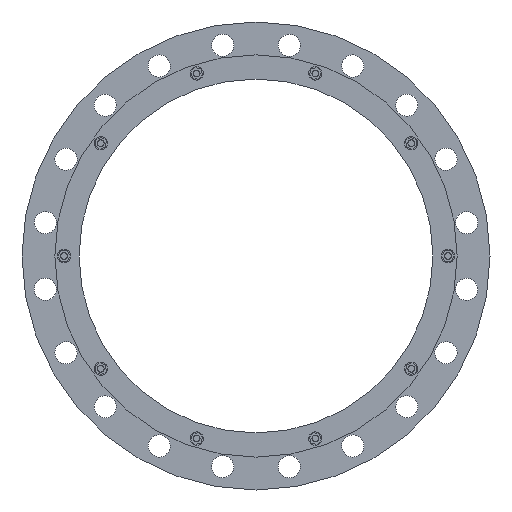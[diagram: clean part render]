
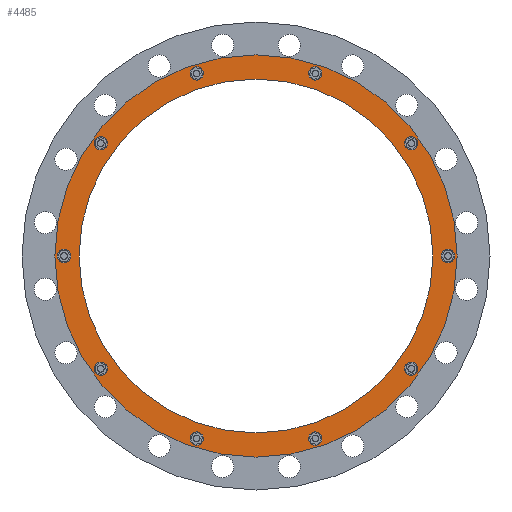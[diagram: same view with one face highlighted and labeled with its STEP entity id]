
A CAD part, front view. The second image highlights one B-rep face of the part: STEP entity #4485.
In plain terms, the highlighted planar face has unit normal (0, -1, 0).
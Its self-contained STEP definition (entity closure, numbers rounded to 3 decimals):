
#1108=CARTESIAN_POINT('',(0.,-92.452,0.));
#1109=DIRECTION('',(0.,-1.,0.));
#1110=DIRECTION('',(1.,0.,0.));
#1111=AXIS2_PLACEMENT_3D('',#1108,#1109,#1110);
#1113=CARTESIAN_POINT('',(0.,-92.452,0.));
#1114=DIRECTION('',(0.,1.,0.));
#1115=DIRECTION('',(1.,0.,0.));
#1116=AXIS2_PLACEMENT_3D('',#1113,#1114,#1115);
#1118=CARTESIAN_POINT('',(346.5,-92.452,0.));
#1119=DIRECTION('',(0.,-1.,0.));
#1120=DIRECTION('',(0.,0.,-1.));
#1121=AXIS2_PLACEMENT_3D('',#1118,#1119,#1120);
#1123=CARTESIAN_POINT('',(346.5,-92.452,0.));
#1124=DIRECTION('',(0.,-1.,0.));
#1125=DIRECTION('',(0.,0.,1.));
#1126=AXIS2_PLACEMENT_3D('',#1123,#1124,#1125);
#1128=CARTESIAN_POINT('',(280.324,-92.452,203.668));
#1129=DIRECTION('',(0.,-1.,0.));
#1130=DIRECTION('',(0.588,0.,-0.809));
#1131=AXIS2_PLACEMENT_3D('',#1128,#1129,#1130);
#1133=CARTESIAN_POINT('',(280.324,-92.452,203.668));
#1134=DIRECTION('',(0.,-1.,0.));
#1135=DIRECTION('',(-0.588,0.,0.809));
#1136=AXIS2_PLACEMENT_3D('',#1133,#1134,#1135);
#1138=CARTESIAN_POINT('',(107.074,-92.452,329.541));
#1139=DIRECTION('',(0.,-1.,0.));
#1140=DIRECTION('',(0.951,0.,-0.309));
#1141=AXIS2_PLACEMENT_3D('',#1138,#1139,#1140);
#1143=CARTESIAN_POINT('',(107.074,-92.452,329.541));
#1144=DIRECTION('',(0.,-1.,0.));
#1145=DIRECTION('',(-0.951,0.,0.309));
#1146=AXIS2_PLACEMENT_3D('',#1143,#1144,#1145);
#1148=CARTESIAN_POINT('',(-107.074,-92.452,329.541));
#1149=DIRECTION('',(0.,-1.,0.));
#1150=DIRECTION('',(0.951,0.,0.309));
#1151=AXIS2_PLACEMENT_3D('',#1148,#1149,#1150);
#1153=CARTESIAN_POINT('',(-107.074,-92.452,329.541));
#1154=DIRECTION('',(0.,-1.,0.));
#1155=DIRECTION('',(-0.951,0.,-0.309));
#1156=AXIS2_PLACEMENT_3D('',#1153,#1154,#1155);
#1158=CARTESIAN_POINT('',(-280.324,-92.452,203.668));
#1159=DIRECTION('',(0.,-1.,0.));
#1160=DIRECTION('',(0.588,0.,0.809));
#1161=AXIS2_PLACEMENT_3D('',#1158,#1159,#1160);
#1163=CARTESIAN_POINT('',(-280.324,-92.452,203.668));
#1164=DIRECTION('',(0.,-1.,0.));
#1165=DIRECTION('',(-0.588,0.,-0.809));
#1166=AXIS2_PLACEMENT_3D('',#1163,#1164,#1165);
#1168=CARTESIAN_POINT('',(-346.5,-92.452,0.));
#1169=DIRECTION('',(0.,-1.,0.));
#1170=DIRECTION('',(0.,0.,1.));
#1171=AXIS2_PLACEMENT_3D('',#1168,#1169,#1170);
#1173=CARTESIAN_POINT('',(-346.5,-92.452,0.));
#1174=DIRECTION('',(0.,-1.,0.));
#1175=DIRECTION('',(0.,0.,-1.));
#1176=AXIS2_PLACEMENT_3D('',#1173,#1174,#1175);
#1178=CARTESIAN_POINT('',(-280.324,-92.452,-203.668));
#1179=DIRECTION('',(0.,-1.,0.));
#1180=DIRECTION('',(-0.588,0.,0.809));
#1181=AXIS2_PLACEMENT_3D('',#1178,#1179,#1180);
#1183=CARTESIAN_POINT('',(-280.324,-92.452,-203.668));
#1184=DIRECTION('',(0.,-1.,0.));
#1185=DIRECTION('',(0.588,0.,-0.809));
#1186=AXIS2_PLACEMENT_3D('',#1183,#1184,#1185);
#1188=CARTESIAN_POINT('',(-107.074,-92.452,-329.541));
#1189=DIRECTION('',(0.,-1.,0.));
#1190=DIRECTION('',(-0.951,0.,0.309));
#1191=AXIS2_PLACEMENT_3D('',#1188,#1189,#1190);
#1193=CARTESIAN_POINT('',(-107.074,-92.452,-329.541));
#1194=DIRECTION('',(0.,-1.,0.));
#1195=DIRECTION('',(0.951,0.,-0.309));
#1196=AXIS2_PLACEMENT_3D('',#1193,#1194,#1195);
#1198=CARTESIAN_POINT('',(107.074,-92.452,-329.541));
#1199=DIRECTION('',(0.,-1.,0.));
#1200=DIRECTION('',(-0.951,0.,-0.309));
#1201=AXIS2_PLACEMENT_3D('',#1198,#1199,#1200);
#1203=CARTESIAN_POINT('',(107.074,-92.452,-329.541));
#1204=DIRECTION('',(0.,-1.,0.));
#1205=DIRECTION('',(0.951,0.,0.309));
#1206=AXIS2_PLACEMENT_3D('',#1203,#1204,#1205);
#1208=CARTESIAN_POINT('',(280.324,-92.452,-203.668));
#1209=DIRECTION('',(0.,-1.,0.));
#1210=DIRECTION('',(-0.588,0.,-0.809));
#1211=AXIS2_PLACEMENT_3D('',#1208,#1209,#1210);
#1213=CARTESIAN_POINT('',(280.324,-92.452,-203.668));
#1214=DIRECTION('',(0.,-1.,0.));
#1215=DIRECTION('',(0.588,0.,0.809));
#1216=AXIS2_PLACEMENT_3D('',#1213,#1214,#1215);
#1218=CARTESIAN_POINT('',(0.,-92.452,0.));
#1219=DIRECTION('',(0.,1.,0.));
#1220=DIRECTION('',(1.,0.,0.));
#1221=AXIS2_PLACEMENT_3D('',#1218,#1219,#1220);
#1231=CARTESIAN_POINT('',(0.,-92.452,0.));
#1232=DIRECTION('',(0.,-1.,0.));
#1233=DIRECTION('',(1.,0.,0.));
#1234=AXIS2_PLACEMENT_3D('',#1231,#1232,#1233);
#2983=CARTESIAN_POINT('',(363.1,-92.452,0.));
#2985=VERTEX_POINT('',#2983);
#2986=CARTESIAN_POINT('',(319.5,-92.452,0.));
#2988=VERTEX_POINT('',#2986);
#2995=CARTESIAN_POINT('',(-363.1,-92.452,0.));
#2997=VERTEX_POINT('',#2995);
#2998=CARTESIAN_POINT('',(-319.5,-92.452,0.));
#3000=VERTEX_POINT('',#2998);
#3037=CARTESIAN_POINT('',(346.5,-92.452,-12.));
#3038=CARTESIAN_POINT('',(346.5,-92.452,12.));
#3039=VERTEX_POINT('',#3037);
#3040=VERTEX_POINT('',#3038);
#3086=CARTESIAN_POINT('',(287.378,-92.452,193.959));
#3087=VERTEX_POINT('',#3086);
#3088=CARTESIAN_POINT('',(273.271,-92.452,213.376));
#3089=VERTEX_POINT('',#3088);
#3130=CARTESIAN_POINT('',(118.487,-92.452,325.833));
#3131=VERTEX_POINT('',#3130);
#3132=CARTESIAN_POINT('',(95.662,-92.452,333.249));
#3133=VERTEX_POINT('',#3132);
#3174=CARTESIAN_POINT('',(-95.662,-92.452,333.249));
#3175=VERTEX_POINT('',#3174);
#3176=CARTESIAN_POINT('',(-118.487,-92.452,325.833));
#3177=VERTEX_POINT('',#3176);
#3218=CARTESIAN_POINT('',(-273.271,-92.452,213.376));
#3219=VERTEX_POINT('',#3218);
#3220=CARTESIAN_POINT('',(-287.378,-92.452,193.959));
#3221=VERTEX_POINT('',#3220);
#3262=CARTESIAN_POINT('',(-346.5,-92.452,12.));
#3263=VERTEX_POINT('',#3262);
#3264=CARTESIAN_POINT('',(-346.5,-92.452,-12.));
#3265=VERTEX_POINT('',#3264);
#3306=CARTESIAN_POINT('',(-287.378,-92.452,-193.959));
#3307=VERTEX_POINT('',#3306);
#3308=CARTESIAN_POINT('',(-273.271,-92.452,-213.376));
#3309=VERTEX_POINT('',#3308);
#3350=CARTESIAN_POINT('',(-118.487,-92.452,-325.833));
#3351=VERTEX_POINT('',#3350);
#3352=CARTESIAN_POINT('',(-95.662,-92.452,-333.249));
#3353=VERTEX_POINT('',#3352);
#3565=CARTESIAN_POINT('',(95.662,-92.452,-333.249));
#3566=VERTEX_POINT('',#3565);
#3567=CARTESIAN_POINT('',(118.487,-92.452,-325.833));
#3568=VERTEX_POINT('',#3567);
#3609=CARTESIAN_POINT('',(273.271,-92.452,-213.376));
#3610=VERTEX_POINT('',#3609);
#3611=CARTESIAN_POINT('',(287.378,-92.452,-193.959));
#3612=VERTEX_POINT('',#3611);
#4410=CARTESIAN_POINT('',(0.,-92.452,0.));
#4411=DIRECTION('',(0.,1.,0.));
#4412=DIRECTION('',(-1.,0.,0.));
#4413=AXIS2_PLACEMENT_3D('',#4410,#4411,#4412);
#4414=PLANE('',#4413);
#4416=ORIENTED_EDGE('',*,*,#4415,.F.);
#4418=ORIENTED_EDGE('',*,*,#4417,.T.);
#4419=EDGE_LOOP('',(#4416,#4418));
#4420=FACE_OUTER_BOUND('',#4419,.F.);
#4422=ORIENTED_EDGE('',*,*,#4421,.F.);
#4424=ORIENTED_EDGE('',*,*,#4423,.T.);
#4425=EDGE_LOOP('',(#4422,#4424));
#4426=FACE_BOUND('',#4425,.F.);
#4428=ORIENTED_EDGE('',*,*,#4427,.T.);
#4430=ORIENTED_EDGE('',*,*,#4429,.T.);
#4431=EDGE_LOOP('',(#4428,#4430));
#4432=FACE_BOUND('',#4431,.F.);
#4434=ORIENTED_EDGE('',*,*,#4433,.T.);
#4436=ORIENTED_EDGE('',*,*,#4435,.T.);
#4437=EDGE_LOOP('',(#4434,#4436));
#4438=FACE_BOUND('',#4437,.F.);
#4440=ORIENTED_EDGE('',*,*,#4439,.T.);
#4442=ORIENTED_EDGE('',*,*,#4441,.T.);
#4443=EDGE_LOOP('',(#4440,#4442));
#4444=FACE_BOUND('',#4443,.F.);
#4446=ORIENTED_EDGE('',*,*,#4445,.T.);
#4448=ORIENTED_EDGE('',*,*,#4447,.T.);
#4449=EDGE_LOOP('',(#4446,#4448));
#4450=FACE_BOUND('',#4449,.F.);
#4452=ORIENTED_EDGE('',*,*,#4451,.T.);
#4454=ORIENTED_EDGE('',*,*,#4453,.T.);
#4455=EDGE_LOOP('',(#4452,#4454));
#4456=FACE_BOUND('',#4455,.F.);
#4458=ORIENTED_EDGE('',*,*,#4457,.T.);
#4460=ORIENTED_EDGE('',*,*,#4459,.T.);
#4461=EDGE_LOOP('',(#4458,#4460));
#4462=FACE_BOUND('',#4461,.F.);
#4464=ORIENTED_EDGE('',*,*,#4463,.T.);
#4466=ORIENTED_EDGE('',*,*,#4465,.T.);
#4467=EDGE_LOOP('',(#4464,#4466));
#4468=FACE_BOUND('',#4467,.F.);
#4470=ORIENTED_EDGE('',*,*,#4469,.T.);
#4472=ORIENTED_EDGE('',*,*,#4471,.T.);
#4473=EDGE_LOOP('',(#4470,#4472));
#4474=FACE_BOUND('',#4473,.F.);
#4475=ORIENTED_EDGE('',*,*,#4392,.T.);
#4476=ORIENTED_EDGE('',*,*,#4403,.T.);
#4477=EDGE_LOOP('',(#4475,#4476));
#4478=FACE_BOUND('',#4477,.F.);
#4480=ORIENTED_EDGE('',*,*,#4479,.T.);
#4482=ORIENTED_EDGE('',*,*,#4481,.T.);
#4483=EDGE_LOOP('',(#4480,#4482));
#4484=FACE_BOUND('',#4483,.F.);
#4485=ADVANCED_FACE('',(#4420,#4426,#4432,#4438,#4444,#4450,#4456,#4462,#4468,
#4474,#4478,#4484),#4414,.F.);
#1112=CIRCLE('',#1111,363.1);
#1117=CIRCLE('',#1116,363.1);
#1122=CIRCLE('',#1121,12.);
#1127=CIRCLE('',#1126,12.);
#1132=CIRCLE('',#1131,12.);
#1137=CIRCLE('',#1136,12.);
#1142=CIRCLE('',#1141,12.);
#1147=CIRCLE('',#1146,12.);
#1152=CIRCLE('',#1151,12.);
#1157=CIRCLE('',#1156,12.);
#1162=CIRCLE('',#1161,12.);
#1167=CIRCLE('',#1166,12.);
#1172=CIRCLE('',#1171,12.);
#1177=CIRCLE('',#1176,12.);
#1182=CIRCLE('',#1181,12.);
#1187=CIRCLE('',#1186,12.);
#1192=CIRCLE('',#1191,12.);
#1197=CIRCLE('',#1196,12.);
#1202=CIRCLE('',#1201,12.);
#1207=CIRCLE('',#1206,12.);
#1212=CIRCLE('',#1211,12.);
#1217=CIRCLE('',#1216,12.);
#1222=CIRCLE('',#1221,319.5);
#1235=CIRCLE('',#1234,319.5);
#4392=EDGE_CURVE('',#3566,#3568,#1202,.T.);
#4403=EDGE_CURVE('',#3568,#3566,#1207,.T.);
#4415=EDGE_CURVE('',#2985,#2997,#1112,.T.);
#4417=EDGE_CURVE('',#2985,#2997,#1117,.T.);
#4421=EDGE_CURVE('',#2988,#3000,#1222,.T.);
#4423=EDGE_CURVE('',#2988,#3000,#1235,.T.);
#4427=EDGE_CURVE('',#3039,#3040,#1122,.T.);
#4429=EDGE_CURVE('',#3040,#3039,#1127,.T.);
#4433=EDGE_CURVE('',#3087,#3089,#1132,.T.);
#4435=EDGE_CURVE('',#3089,#3087,#1137,.T.);
#4439=EDGE_CURVE('',#3131,#3133,#1142,.T.);
#4441=EDGE_CURVE('',#3133,#3131,#1147,.T.);
#4445=EDGE_CURVE('',#3175,#3177,#1152,.T.);
#4447=EDGE_CURVE('',#3177,#3175,#1157,.T.);
#4451=EDGE_CURVE('',#3219,#3221,#1162,.T.);
#4453=EDGE_CURVE('',#3221,#3219,#1167,.T.);
#4457=EDGE_CURVE('',#3263,#3265,#1172,.T.);
#4459=EDGE_CURVE('',#3265,#3263,#1177,.T.);
#4463=EDGE_CURVE('',#3307,#3309,#1182,.T.);
#4465=EDGE_CURVE('',#3309,#3307,#1187,.T.);
#4469=EDGE_CURVE('',#3351,#3353,#1192,.T.);
#4471=EDGE_CURVE('',#3353,#3351,#1197,.T.);
#4479=EDGE_CURVE('',#3610,#3612,#1212,.T.);
#4481=EDGE_CURVE('',#3612,#3610,#1217,.T.);
